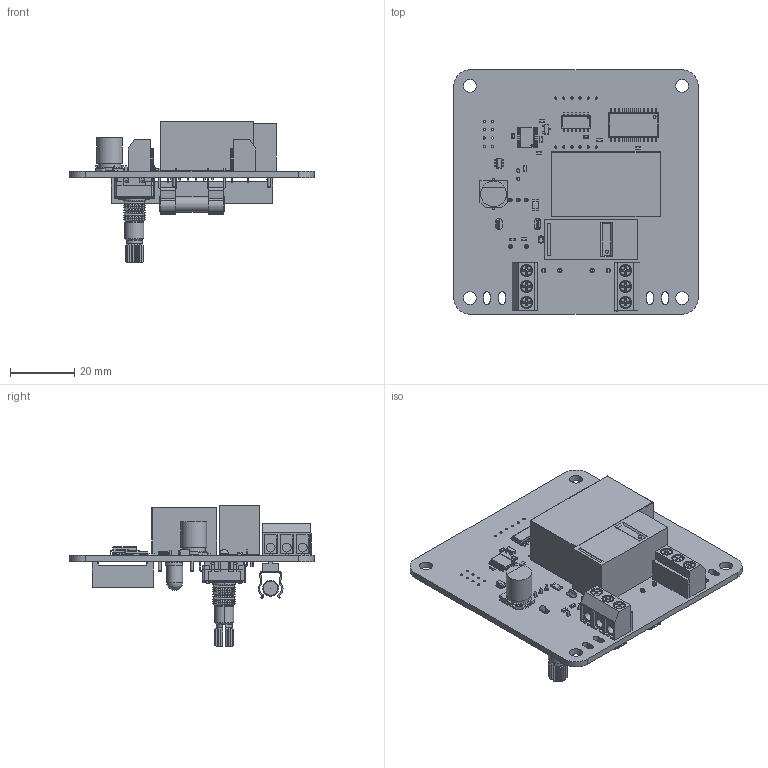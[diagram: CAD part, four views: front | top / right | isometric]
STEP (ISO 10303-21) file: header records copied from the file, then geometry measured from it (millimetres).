
FILE_DESCRIPTION(('Open CASCADE Model'),'2;1');
FILE_NAME('Open CASCADE Shape Model','2020-02-01T18:16:38',('Author'),( 'Open CASCADE'),'Open CASCADE STEP processor 6.8','Open CASCADE 6.8' ,'Unknown');
FILE_SCHEMA(('AUTOMOTIVE_DESIGN { 1 0 10303 214 1 1 1 1 }'));
Length unit declared in the file: millimetre
Products named in the file (114): PCB; Board; C9; 829138976; Terminal; Open_CASCADE_STEP_translator_6.8_4.1.1; Open_CASCADE_STEP_translator_6.8_4.1.2; Mid_Body; Open_CASCADE_STEP_translator_6.8_4.2.1; ENC; pec11r-4220k_l13-8_w12-4_h26-5; Open CASCADE STEP translator 6.8 5.3.1.1; Open CASCADE STEP translator 6.8 5.3.1.2; C1; 730846432; Open_CASCADE_STEP_translator_6.8_14.1.1; Open_CASCADE_STEP_translator_6.8_14.1.2; Open_CASCADE_STEP_translator_6.8_14.2.1; C2; 730846304; base; Open_CASCADE_STEP_translator_6.8_90.1.1; cylinder; Open_CASCADE_STEP_translator_6.8_90.2.1; mark; Open_CASCADE_STEP_translator_6.8_90.3.1; lead; C3; 730846816; C4; C5; 730846688; C7; D1; LED_5mm; D2; 730846944; Body; Open_CASCADE_STEP_translator_6.8_16.1.1; LDO1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
Assembly tree (186 placements, depth 5):
  PCB
    Board
    C9
      829138976
        Terminal
          Open_CASCADE_STEP_translator_6.8_4.1.1
          Open_CASCADE_STEP_translator_6.8_4.1.2
        Mid_Body
          Open_CASCADE_STEP_translator_6.8_4.2.1
    ENC
      pec11r-4220k_l13-8_w12-4_h26-5
        Open CASCADE STEP translator 6.8 5.3.1.1
        Open CASCADE STEP translator 6.8 5.3.1.2
    C1
      730846432
        Terminal
          Open_CASCADE_STEP_translator_6.8_14.1.1
          Open_CASCADE_STEP_translator_6.8_14.1.2
        Mid_Body
          Open_CASCADE_STEP_translator_6.8_14.2.1
    C2
      730846304
        base
          Open_CASCADE_STEP_translator_6.8_90.1.1
        cylinder
          Open_CASCADE_STEP_translator_6.8_90.2.1
        mark
          Open_CASCADE_STEP_translator_6.8_90.3.1
        lead  x2
    C3
      730846816
        Terminal
          Open_CASCADE_STEP_translator_6.8_14.1.1
          Open_CASCADE_STEP_translator_6.8_14.1.2
        Mid_Body
          Open_CASCADE_STEP_translator_6.8_14.2.1
    C4
      730846432
        Terminal
          Open_CASCADE_STEP_translator_6.8_14.1.1
          Open_CASCADE_STEP_translator_6.8_14.1.2
        Mid_Body
          Open_CASCADE_STEP_translator_6.8_14.2.1
    C5
      730846688
        Terminal
          Open_CASCADE_STEP_translator_6.8_14.1.1
          Open_CASCADE_STEP_translator_6.8_14.1.2
        Mid_Body
          Open_CASCADE_STEP_translator_6.8_14.2.1
    C7
      730846816
        Terminal
          Open_CASCADE_STEP_translator_6.8_14.1.1
          Open_CASCADE_STEP_translator_6.8_14.1.2
        Mid_Body
          Open_CASCADE_STEP_translator_6.8_14.2.1
    D1
      LED_5mm
    D2
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Bounding box: 76 x 76 x 44.16 mm (x, y, z)
Volume: 38225.2 mm3; surface area: 29370.3 mm2
Topology: 180 solids, 186 shells, 3771 faces, 8432 edges, 4972 vertices
Faces by surface type: plane 2551, cylinder 965, sphere 115, cone 68, bspline 48, torus 20, revolution 4
Full cylindrical faces by diameter (mm): 0.4 x1, 0.5 x13, 0.537 x1, 0.7 x20, 0.95 x1, 1 x10, 1.05 x2, 1.2 x15, 1.3 x4, 1.4 x6, 1.8 x4, 2.75 x6, 3.5 x6, 3.8 x6, 4 x4, 5 x1, 7 x1, 8 x1
Entity records: 154862 total; most frequent: CARTESIAN_POINT 58881, DIRECTION 16428, LINE 9290, VECTOR 9290, ORIENTED_EDGE 9099, PCURVE 9099, DEFINITIONAL_REPRESENTATION 9099, EDGE_CURVE 4553
